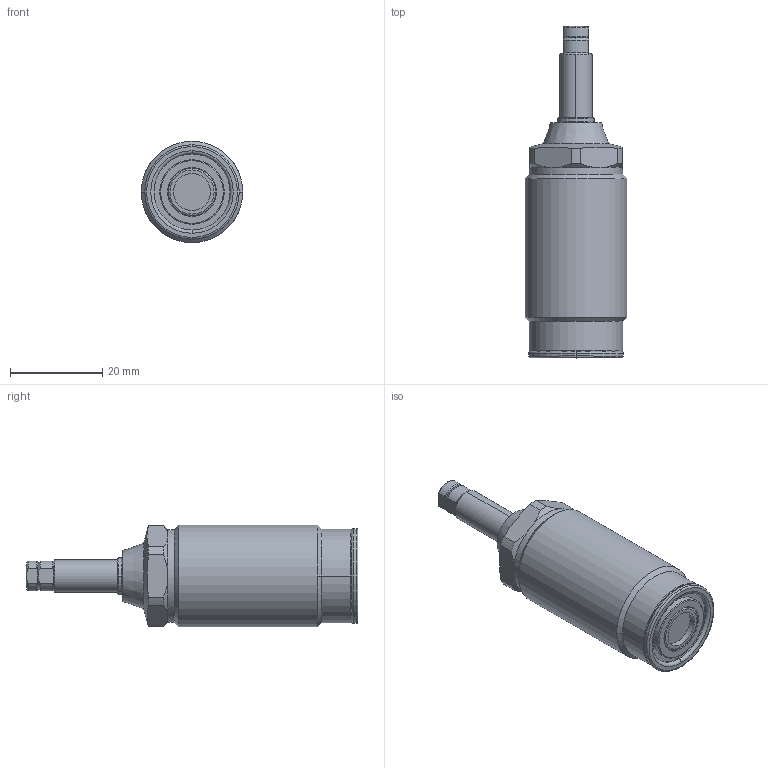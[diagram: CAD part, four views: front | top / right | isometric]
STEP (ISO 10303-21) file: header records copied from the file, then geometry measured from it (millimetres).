
FILE_DESCRIPTION(/* description */ (''),/* implementation_level */ '2;1');
FILE_NAME(/* name */ 'TNE22-Q.stp',/* time_stamp */ '2025-01-09T15:47:55+08:00',/* author */ (''),/* organization */ (''),/* preprocessor_version */ 'ST-DEVELOPER v16.7',/* originating_system */ 'SIEMENS PLM Software NX 12.0',/* authorisation */ '');
FILE_SCHEMA (('AUTOMOTIVE_DESIGN { 1 0 10303 214 3 1 1 1 }'));
Length unit declared in the file: millimetre
Products named in the file (7): XLD-M4_Oring807736; XLD-M4_contactbolt2738737; TNE22-Q-04; TNE22-Q-2; TNE22-Q-1; TNE22-Q-3; TNE22-Q_stp
Assembly tree (6 placements, depth 3):
  TNE22-Q_stp
    TNE22-Q-1
    TNE22-Q-2
    TNE22-Q-3
      XLD-M4_contactbolt2738737
      XLD-M4_Oring807736
    TNE22-Q-04
Bounding box: 22 x 72 x 22 mm (x, y, z)
Volume: 17791.3 mm3; surface area: 5176.3 mm2
Topology: 5 solids, 5 shells, 140 faces, 304 edges, 181 vertices
Faces by surface type: cylinder 45, torus 36, plane 34, cone 23, sphere 2
Full cylindrical faces by diameter (mm): 20.2 x1, 22 x1
Entity records: 4133 total; most frequent: CARTESIAN_POINT 837, DIRECTION 749, ORIENTED_EDGE 598, AXIS2_PLACEMENT_3D 335, EDGE_CURVE 299, CIRCLE 188, VERTEX_POINT 181, EDGE_LOOP 158
